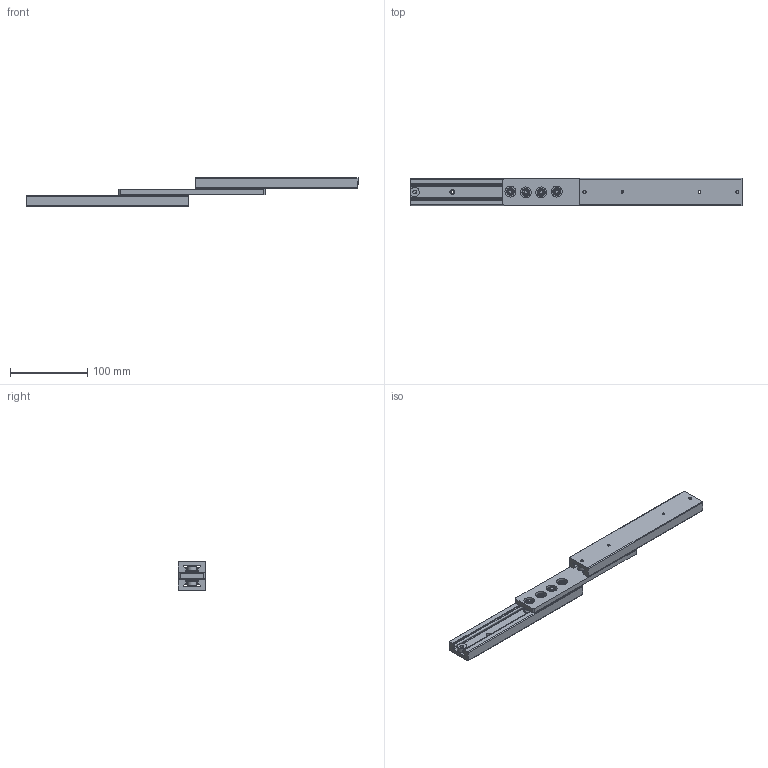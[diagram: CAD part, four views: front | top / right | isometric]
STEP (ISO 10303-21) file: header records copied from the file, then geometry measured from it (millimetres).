
FILE_DESCRIPTION (( 'STEP AP214' ), '1' );
FILE_NAME ('LSIM35DF.STEP', '2021-06-14T01:45:51', ( '' ), ( '' ), 'SwSTEP 2.0', 'SolidWorks 2019', '' );
FILE_SCHEMA (( 'AUTOMOTIVE_DESIGN' ));
Length unit declared in the file: millimetre
Products named in the file (4): LSIM35DF; LSIM35DFレール; LSIM35ストッパー; LSIM35DFリテーナ
Assembly tree (7 placements, depth 2):
  LSIM35DF
    LSIM35DFリテーナ
    LSIM35DFレール  x2
    LSIM35ストッパー  x4
Bounding box: 430 x 35 x 37.5 mm (x, y, z)
Volume: 193094.2 mm3; surface area: 78410.3 mm2
Topology: 7 solids, 7 shells, 448 faces, 982 edges, 624 vertices
Faces by surface type: plane 208, cone 116, cylinder 116, torus 8
Full cylindrical faces by diameter (mm): 3.3 x4, 3.4 x4, 4 x4, 5 x12, 6.5 x4, 8 x4, 8.6 x16, 10 x8, 12 x4, 14 x8, 16 x16
Entity records: 9049 total; most frequent: CARTESIAN_POINT 1934, DIRECTION 1453, ORIENTED_EDGE 1342, EDGE_CURVE 671, AXIS2_PLACEMENT_3D 633, EDGE_LOOP 507, VERTEX_POINT 466, FACE_OUTER_BOUND 429
